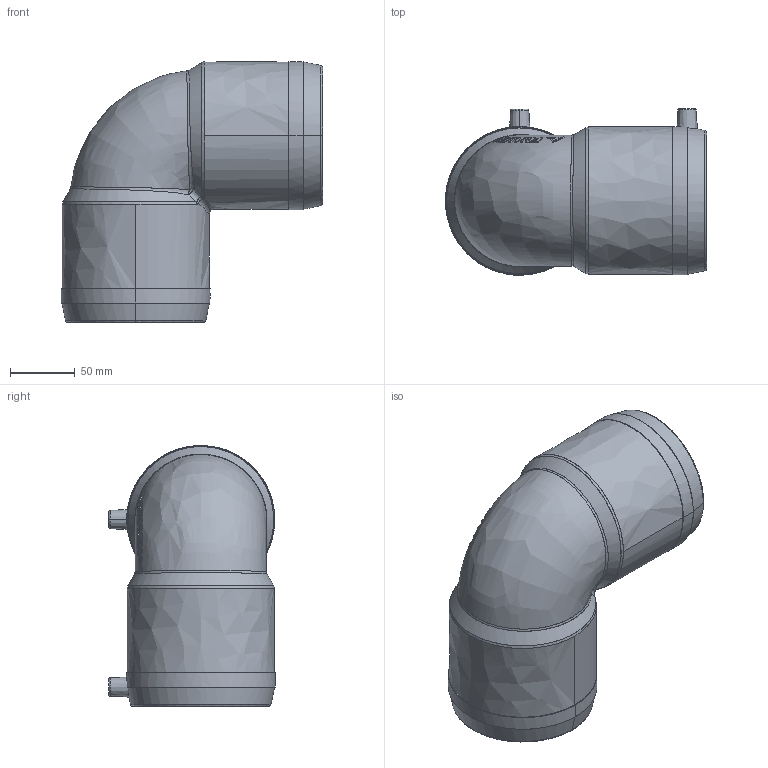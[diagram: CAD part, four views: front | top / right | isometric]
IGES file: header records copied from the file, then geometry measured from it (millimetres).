
Start section:  PTC IGES file: w90_d090_01.igs
Global section: file name: w90_d090_01.igs; native system: Pro/ENGINEER by Parametric Technology Corporation; preprocessor: 2011490; author: mtunjic; organization: Unknown; date: 20130812.092709; units: millimetre
Bounding box: 201.25 x 128.05 x 201.05 mm (x, y, z)
Surface area: 172470.9 mm2 (no closed solid volume)
Topology: 0 solids, 0 shells, 201 faces, 1016 edges, 1016 vertices
Faces by surface type: bspline 201
